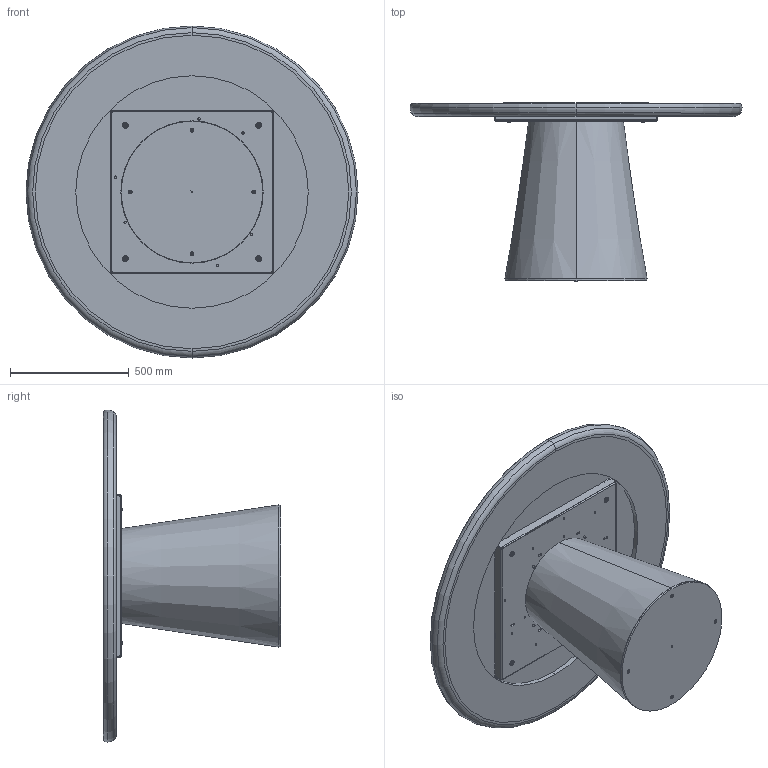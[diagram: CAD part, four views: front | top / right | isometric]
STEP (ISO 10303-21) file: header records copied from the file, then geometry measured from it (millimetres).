
FILE_DESCRIPTION (( 'STEP AP203' ), '1' );
FILE_NAME ('TO06K_Teo_d.140_King.STEP', '2024-08-02T09:20:47', ( '' ), ( '' ), 'SwSTEP 2.0', 'SolidWorks 2022', '' );
FILE_SCHEMA (( 'CONFIG_CONTROL_DESIGN' ));
Length unit declared in the file: millimetre
Products named in the file (14): M8xXXmm_hex_M8X20mm; BASE TED LEGNO CON ZAVORRA; ASSIEME PIANO KING_PIANO+CERAMICA DIAM140; rondella M8_8X24; COLLO TELAIO UNIVERSALE TTAV0801 CON FERRAMENTA_MTG TOP LEGNO-MARMO-KING; TTAV0801 TELAIO UNIVERSALE TONDO-PIASTRINA; TO06K_Teo_d.140_King; TEO0000-00-TEO BASE LEGNO IMPIALLACCIATA LEVIGATO PRONTA X VERNICE; K92-00-PIANO SOLO CERAMICA D.136.7cm X PIANO C BORDO; M8xXXmm_M8x55mm; TEO000000PIA-00-TEO PIASTRA DI BASE IN METALLO GREZZO; TTAV0801-02-TELAIO UNIVERSALE TONDO; W92-01-PIANO KING BORDO Ø140 SAGOMATO LACCATO; TTAV0801-02-TELAIO UNIVERSALE TONDO-VASSOIO
Assembly tree (25 placements, depth 4):
  TO06K_Teo_d.140_King
    BASE TED LEGNO CON ZAVORRA
      TEO000000PIA-00-TEO PIASTRA DI BASE IN METALLO GREZZO
      TEO0000-00-TEO BASE LEGNO IMPIALLACCIATA LEVIGATO PRONTA X VERNICE
      M8xXXmm_hex_M8X20mm  x4
    COLLO TELAIO UNIVERSALE TTAV0801 CON FERRAMENTA_MTG TOP LEGNO-MARMO-KING
      TTAV0801-02-TELAIO UNIVERSALE TONDO
        TTAV0801-02-TELAIO UNIVERSALE TONDO-VASSOIO
        TTAV0801 TELAIO UNIVERSALE TONDO-PIASTRINA  x4
      rondella M8_8X24  x4
      M8xXXmm_M8x55mm  x4
    ASSIEME PIANO KING_PIANO+CERAMICA DIAM140
      W92-01-PIANO KING BORDO Ø140 SAGOMATO LACCATO
      K92-00-PIANO SOLO CERAMICA D.136.7cm X PIANO C BORDO
Bounding box: 1400 x 749.19 x 1400 mm (x, y, z)
Volume: 99312742 mm3; surface area: 10714877.9 mm2
Topology: 21 solids, 21 shells, 822 faces, 2044 edges, 1256 vertices
Faces by surface type: plane 374, cylinder 294, cone 88, torus 66
Entity records: 16248 total; most frequent: DIRECTION 2636, CARTESIAN_POINT 2517, ORIENTED_EDGE 2390, EDGE_CURVE 1195, AXIS2_PLACEMENT_3D 966, VERTEX_POINT 761, LINE 704, VECTOR 704
